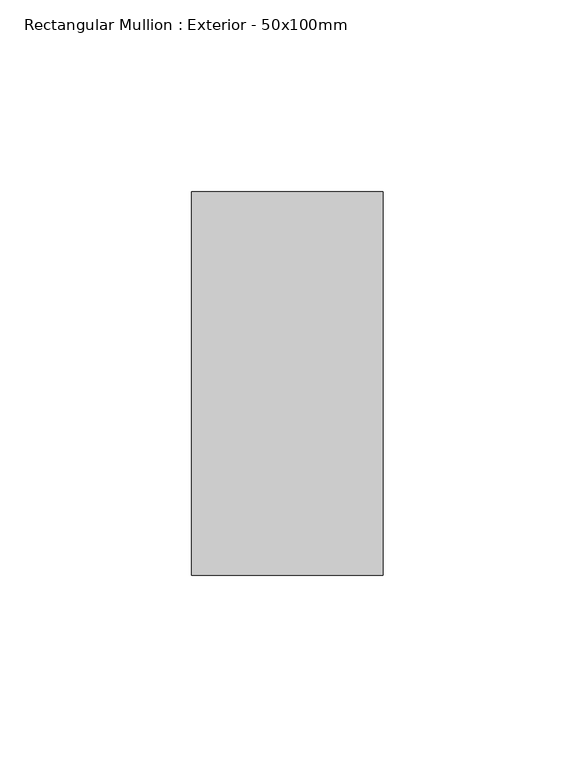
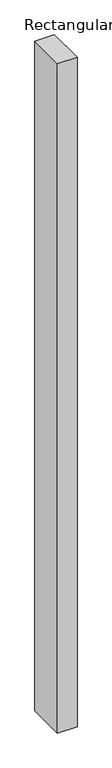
"""IFC4 building model written with IfcOpenShell, lengths in millimetres: member geometry, Rectangular Mullion : Exterior - 50x100mm."""

from ifc_helpers import new_model, si_unit, frame, origin, place, context, project, spatial, polyline, outline, extrude, source, transform, mapped, element, save


def rectangular_mullion_exterior_50x100mm_3ea8714e(model_context):
    return source(origin(), model_context, "Body", "SweptSolid", [
        extrude(outline(polyline([(25.0, 100.0), (25.0, 0.0), (-25.0, 0.0), (-25.0, 100.0), (25.0, 100.0)])), frame((0.0, 0.0, -1810.0), z_axis=(0.0, 0.0, 1.0), x_axis=(1.0, 0.0, 0.0)), (0.0, 0.0, 1.0), 1810.0),
    ])


if __name__ == "__main__":
    model = new_model("IFC4")
    model_context = context("Model", 3, world=origin())
    ifc_project = project(units=[si_unit("LENGTHUNIT", "METRE", prefix="MILLI")], contexts=[model_context])
    site = spatial("IfcSite", under=ifc_project)
    building = spatial("IfcBuilding", under=site)
    placement = place(None, origin())
    rectangular_mullion_exterior_50x100mm_shape = rectangular_mullion_exterior_50x100mm_3ea8714e(model_context)
    element("IfcMember", 1, ObjectType="Rectangular Mullion : Exterior - 50x100mm", at=placement, inside=building, context=model_context, shape_type="MappedRepresentation", body=[
        mapped(rectangular_mullion_exterior_50x100mm_shape, transform((0.0, 0.0, 0.0), x_axis=(1.0, 0.0, 0.0), y_axis=(0.0, 1.0, 0.0), z_axis=(0.0, 0.0, 1.0))),
    ])
    save(model, "model.ifc")
